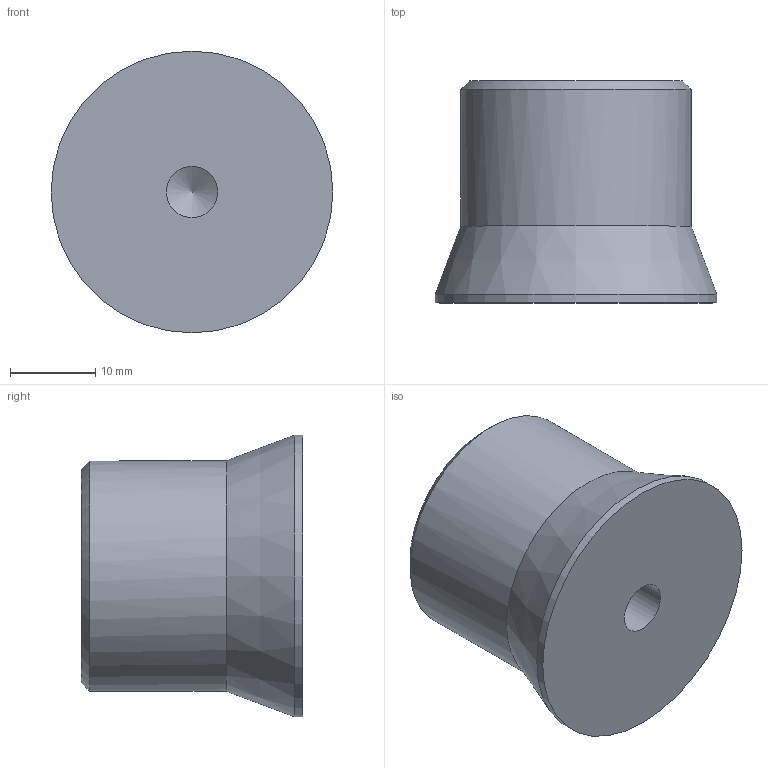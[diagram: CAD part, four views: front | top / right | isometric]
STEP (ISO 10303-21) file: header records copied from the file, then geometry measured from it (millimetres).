
FILE_DESCRIPTION( ( 'STEP AP203' ), '1' );
FILE_NAME( 'C:/Temp/Ganter_Step_05_03_2020/data/1_4/gn_726_2/gn_726_2_a/gn_726_2_a_2/Control knob GN 726.2-27-Z6-A-2.stp', '2020-03-05T10:50:00', ( 'License CC BY-ND 4.0' ), ( 'CADENAS' ), ' ', 'PARTsolutions', ' ' );
FILE_SCHEMA( ( 'CONFIG_CONTROL_DESIGN' ) );
Length unit declared in the file: millimetre
Products named in the file (1): _Control knob GN 726.2-27-Z6-A-2
Bounding box: 33 x 26 x 33 mm (x, y, z)
Volume: 15587.4 mm3; surface area: 4058.1 mm2
Topology: 1 solids, 1 shells, 70 faces, 196 edges, 129 vertices
Faces by surface type: cylinder 38, plane 28, cone 4
Full cylindrical faces by diameter (mm): 6 x1, 27 x1, 33 x1
Entity records: 2363 total; most frequent: CARTESIAN_POINT 618, ORIENTED_EDGE 376, DIRECTION 317, EDGE_CURVE 188, VERTEX_POINT 129, AXIS2_PLACEMENT_3D 116, LINE 85, VECTOR 85
